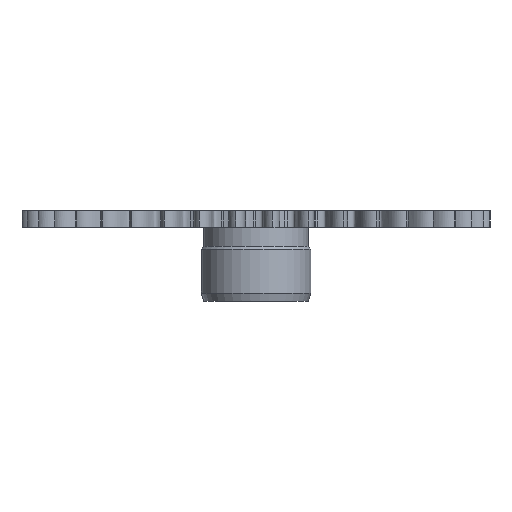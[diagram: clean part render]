
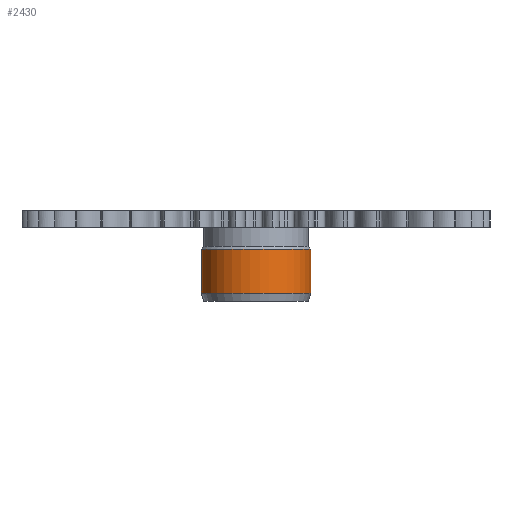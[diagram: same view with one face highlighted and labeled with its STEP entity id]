
A CAD part, front view. The second image highlights one B-rep face of the part: STEP entity #2430.
In plain terms, the highlighted cylindrical face has radius 3.5 mm (diameter 7 mm), a full revolution.
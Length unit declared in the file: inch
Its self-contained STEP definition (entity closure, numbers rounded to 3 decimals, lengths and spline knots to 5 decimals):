
#264=FACE_OUTER_BOUND('',#392,.T.);
#392=EDGE_LOOP('',(#1510,#1511,#1512,#1513,#1514,#1515));
#523=LINE('',#3152,#648);
#648=VECTOR('',#2744,0.1378);
#775=CIRCLE('',#2582,0.1378);
#778=CIRCLE('',#2585,0.1378);
#779=CIRCLE('',#2587,0.1378);
#780=CIRCLE('',#2588,0.1378);
#869=VERTEX_POINT('',#3141);
#870=VERTEX_POINT('',#3142);
#873=VERTEX_POINT('',#3151);
#874=VERTEX_POINT('',#3153);
#1124=EDGE_CURVE('',#869,#870,#775,.T.);
#1128=EDGE_CURVE('',#870,#869,#778,.T.);
#1129=EDGE_CURVE('',#869,#873,#523,.T.);
#1130=EDGE_CURVE('',#873,#874,#779,.T.);
#1131=EDGE_CURVE('',#874,#873,#780,.T.);
#1510=ORIENTED_EDGE('',*,*,#1124,.F.);
#1511=ORIENTED_EDGE('',*,*,#1129,.T.);
#1512=ORIENTED_EDGE('',*,*,#1130,.T.);
#1513=ORIENTED_EDGE('',*,*,#1131,.T.);
#1514=ORIENTED_EDGE('',*,*,#1129,.F.);
#1515=ORIENTED_EDGE('',*,*,#1128,.F.);
#2257=CYLINDRICAL_SURFACE('',#2586,0.1378);
#2430=ADVANCED_FACE('',(#264),#2257,.T.);
#2582=AXIS2_PLACEMENT_3D('',#3143,#2733,#2734);
#2585=AXIS2_PLACEMENT_3D('',#3149,#2740,#2741);
#2586=AXIS2_PLACEMENT_3D('',#3150,#2742,#2743);
#2587=AXIS2_PLACEMENT_3D('',#3154,#2745,#2746);
#2588=AXIS2_PLACEMENT_3D('',#3155,#2747,#2748);
#2733=DIRECTION('center_axis',(0.,0.,
-1.));
#2734=DIRECTION('ref_axis',(0.998,0.07,0.));
#2740=DIRECTION('center_axis',(0.,0.,
-1.));
#2741=DIRECTION('ref_axis',(0.998,0.07,0.));
#2742=DIRECTION('center_axis',(0.,0.,
-1.));
#2743=DIRECTION('ref_axis',(0.998,0.07,0.));
#2744=DIRECTION('',(0.,0.,1.));
#2745=DIRECTION('center_axis',(0.,0.,
-1.));
#2746=DIRECTION('ref_axis',(0.998,0.07,0.));
#2747=DIRECTION('center_axis',(0.,0.,
-1.));
#2748=DIRECTION('ref_axis',(0.998,0.07,0.));
#3141=CARTESIAN_POINT('',(-0.13746,-0.00962,-0.4685));
#3142=CARTESIAN_POINT('',(0.13746,0.00962,-0.4685));
#3143=CARTESIAN_POINT('Origin',(0.,0.,
-0.4685));
#3149=CARTESIAN_POINT('Origin',(0.,0.,
-0.4685));
#3150=CARTESIAN_POINT('Origin',(0.,0.,
-0.26181));
#3151=CARTESIAN_POINT('',(-0.13746,-0.00962,-0.35827));
#3152=CARTESIAN_POINT('',(-0.13746,-0.00962,-0.26181));
#3153=CARTESIAN_POINT('',(0.13746,0.00962,-0.35827));
#3154=CARTESIAN_POINT('Origin',(0.,0.,
-0.35827));
#3155=CARTESIAN_POINT('Origin',(0.,0.,
-0.35827));
